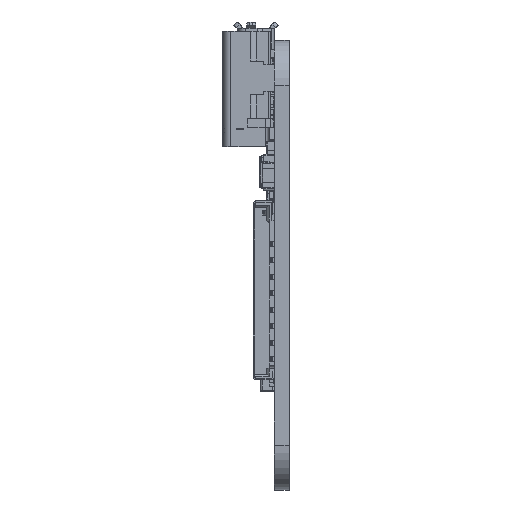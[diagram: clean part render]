
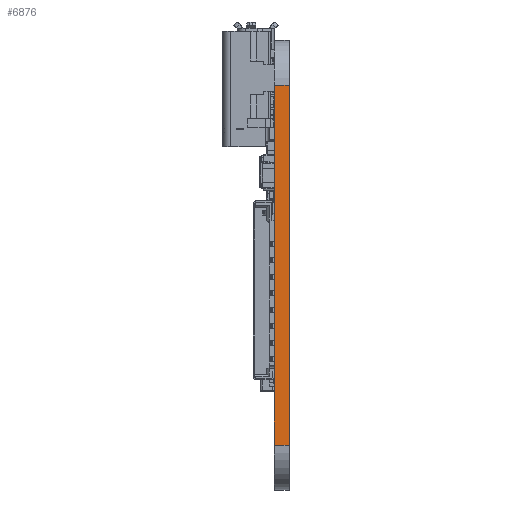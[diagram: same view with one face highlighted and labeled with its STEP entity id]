
A CAD part, left-side view. The second image highlights one B-rep face of the part: STEP entity #6876.
In plain terms, the highlighted planar face has unit normal (-1, 0, 0).
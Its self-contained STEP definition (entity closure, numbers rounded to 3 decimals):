
#1129 = VECTOR ( 'NONE', #46260, 1000. ) ;
#6876 = ADVANCED_FACE ( 'NONE', ( #19956 ), #39454, .F. ) ;
#7549 = EDGE_LOOP ( 'NONE', ( #45848, #81954, #25770, #96772 ) ) ;
#9319 = LINE ( 'NONE', #74641, #61061 ) ;
#9863 = VERTEX_POINT ( 'NONE', #33523 ) ;
#11243 = DIRECTION ( 'NONE',  ( 1., 0., 0. ) ) ;
#14887 = VERTEX_POINT ( 'NONE', #61851 ) ;
#17802 = EDGE_CURVE ( 'NONE', #39391, #14887, #37276, .T. ) ;
#19835 = CARTESIAN_POINT ( 'NONE',  ( -32.5, 1., 12. ) ) ;
#19956 = FACE_OUTER_BOUND ( 'NONE', #7549, .T. ) ;
#25770 = ORIENTED_EDGE ( 'NONE', *, *, #51944, .F. ) ;
#27266 = EDGE_CURVE ( 'NONE', #50827, #39391, #47865, .T. ) ;
#27459 = DIRECTION ( 'NONE',  ( 0., 0., 1. ) ) ;
#28723 = CARTESIAN_POINT ( 'NONE',  ( -32.5, 1., -12. ) ) ;
#29226 = DIRECTION ( 'NONE',  ( 0., 0., 1. ) ) ;
#33523 = CARTESIAN_POINT ( 'NONE',  ( -32.5, 1., 12. ) ) ;
#33703 = EDGE_CURVE ( 'NONE', #9863, #14887, #78782, .T. ) ;
#37276 = LINE ( 'NONE', #51957, #42263 ) ;
#39391 = VERTEX_POINT ( 'NONE', #81599 ) ;
#39454 = PLANE ( 'NONE',  #61627 ) ;
#40009 = CARTESIAN_POINT ( 'NONE',  ( -32.5, 1., 12. ) ) ;
#40562 = VECTOR ( 'NONE', #95370, 1000. ) ;
#42263 = VECTOR ( 'NONE', #29226, 1000. ) ;
#45848 = ORIENTED_EDGE ( 'NONE', *, *, #17802, .T. ) ;
#46260 = DIRECTION ( 'NONE',  ( 0., -1., 0. ) ) ;
#47865 = LINE ( 'NONE', #77257, #1129 ) ;
#50827 = VERTEX_POINT ( 'NONE', #28723 ) ;
#51944 = EDGE_CURVE ( 'NONE', #50827, #9863, #9319, .T. ) ;
#51957 = CARTESIAN_POINT ( 'NONE',  ( -32.5, 0., 12. ) ) ;
#61061 = VECTOR ( 'NONE', #27459, 1000. ) ;
#61627 = AXIS2_PLACEMENT_3D ( 'NONE', #19835, #11243, #74900 ) ;
#61851 = CARTESIAN_POINT ( 'NONE',  ( -32.5, 0., 12. ) ) ;
#74641 = CARTESIAN_POINT ( 'NONE',  ( -32.5, 1., 12. ) ) ;
#74900 = DIRECTION ( 'NONE',  ( 0., 0., -1. ) ) ;
#77257 = CARTESIAN_POINT ( 'NONE',  ( -32.5, 1., -12. ) ) ;
#78782 = LINE ( 'NONE', #40009, #40562 ) ;
#81599 = CARTESIAN_POINT ( 'NONE',  ( -32.5, 0., -12. ) ) ;
#81954 = ORIENTED_EDGE ( 'NONE', *, *, #33703, .F. ) ;
#95370 = DIRECTION ( 'NONE',  ( 0., -1., 0. ) ) ;
#96772 = ORIENTED_EDGE ( 'NONE', *, *, #27266, .T. ) ;
